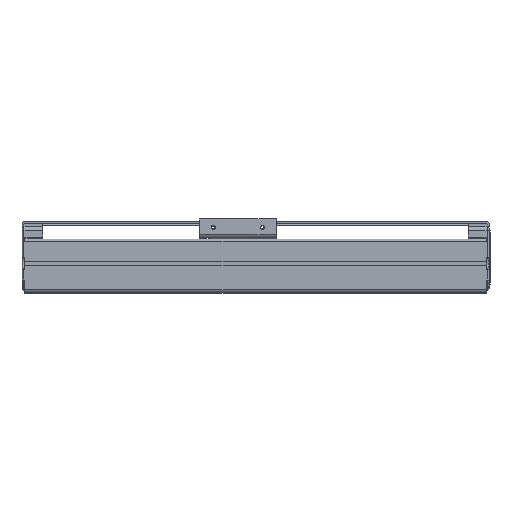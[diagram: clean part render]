
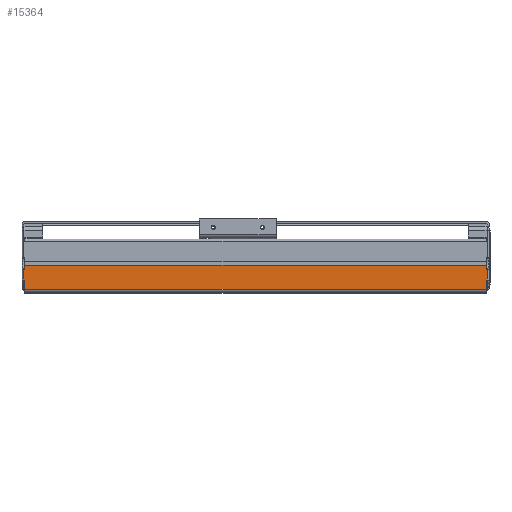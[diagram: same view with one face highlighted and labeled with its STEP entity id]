
A CAD part, top view. The second image highlights one B-rep face of the part: STEP entity #15364.
In plain terms, the highlighted planar face has unit normal (0, 0, 1).
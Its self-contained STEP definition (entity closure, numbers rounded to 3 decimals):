
#2201=DIRECTION('',(0.,1.,0.));
#2202=VECTOR('',#2201,11.);
#2203=CARTESIAN_POINT('',(469.,14.,39.));
#2204=LINE('',#2203,#2202);
#2220=DIRECTION('',(1.,0.,0.));
#2221=VECTOR('',#2220,1.);
#2222=CARTESIAN_POINT('',(468.,14.,39.));
#2223=LINE('',#2222,#2221);
#2228=DIRECTION('',(0.,-1.,0.));
#2229=VECTOR('',#2228,9.5);
#2230=CARTESIAN_POINT('',(0.,14.,39.));
#2231=LINE('',#2230,#2229);
#2232=DIRECTION('',(0.,-1.,0.));
#2233=VECTOR('',#2232,3.9);
#2234=CARTESIAN_POINT('',(0.,28.9,39.));
#2235=LINE('',#2234,#2233);
#2236=DIRECTION('',(0.,1.,0.));
#2237=VECTOR('',#2236,3.9);
#2238=CARTESIAN_POINT('',(468.,25.,39.));
#2239=LINE('',#2238,#2237);
#2240=DIRECTION('',(0.,1.,0.));
#2241=VECTOR('',#2240,9.5);
#2242=CARTESIAN_POINT('',(468.,4.5,39.));
#2243=LINE('',#2242,#2241);
#3760=DIRECTION('',(1.,0.,0.));
#3761=VECTOR('',#3760,468.);
#3762=CARTESIAN_POINT('',(0.,4.5,39.));
#3763=LINE('',#3762,#3761);
#6506=DIRECTION('',(-1.,0.,0.));
#6507=VECTOR('',#6506,1.);
#6508=CARTESIAN_POINT('',(0.,25.,39.));
#6509=LINE('',#6508,#6507);
#6529=DIRECTION('',(0.,-1.,0.));
#6530=VECTOR('',#6529,11.);
#6531=CARTESIAN_POINT('',(-1.,25.,39.));
#6532=LINE('',#6531,#6530);
#6551=DIRECTION('',(1.,0.,0.));
#6552=VECTOR('',#6551,1.);
#6553=CARTESIAN_POINT('',(-1.,14.,39.));
#6554=LINE('',#6553,#6552);
#8803=DIRECTION('',(-1.,0.,0.));
#8804=VECTOR('',#8803,468.);
#8805=CARTESIAN_POINT('',(468.,28.9,39.));
#8806=LINE('',#8805,#8804);
#9497=DIRECTION('',(-1.,0.,0.));
#9498=VECTOR('',#9497,1.);
#9499=CARTESIAN_POINT('',(469.,25.,39.));
#9500=LINE('',#9499,#9498);
#9718=CARTESIAN_POINT('',(0.,4.5,39.));
#9719=VERTEX_POINT('',#9718);
#9720=CARTESIAN_POINT('',(0.,28.9,39.));
#9722=VERTEX_POINT('',#9720);
#9770=CARTESIAN_POINT('',(468.,28.9,39.));
#9771=VERTEX_POINT('',#9770);
#9773=CARTESIAN_POINT('',(468.,4.5,39.));
#9775=VERTEX_POINT('',#9773);
#10354=CARTESIAN_POINT('',(469.,25.,39.));
#10355=VERTEX_POINT('',#10354);
#10358=CARTESIAN_POINT('',(469.,14.,39.));
#10359=VERTEX_POINT('',#10358);
#11454=CARTESIAN_POINT('',(-1.,25.,39.));
#11455=VERTEX_POINT('',#11454);
#11456=CARTESIAN_POINT('',(-1.,14.,39.));
#11457=VERTEX_POINT('',#11456);
#11652=CARTESIAN_POINT('',(468.,14.,39.));
#11654=VERTEX_POINT('',#11652);
#11686=CARTESIAN_POINT('',(468.,25.,39.));
#11688=VERTEX_POINT('',#11686);
#11884=CARTESIAN_POINT('',(0.,25.,39.));
#11885=VERTEX_POINT('',#11884);
#11886=CARTESIAN_POINT('',(0.,14.,39.));
#11888=VERTEX_POINT('',#11886);
#15337=CARTESIAN_POINT('',(234.,16.7,39.));
#15338=DIRECTION('',(0.,0.,1.));
#15339=DIRECTION('',(0.,-1.,0.));
#15340=AXIS2_PLACEMENT_3D('',#15337,#15338,#15339);
#15341=PLANE('',#15340);
#15343=ORIENTED_EDGE('',*,*,#15342,.F.);
#15345=ORIENTED_EDGE('',*,*,#15344,.F.);
#15347=ORIENTED_EDGE('',*,*,#15346,.F.);
#15349=ORIENTED_EDGE('',*,*,#15348,.F.);
#15351=ORIENTED_EDGE('',*,*,#15350,.F.);
#15353=ORIENTED_EDGE('',*,*,#15352,.F.);
#15354=ORIENTED_EDGE('',*,*,#14996,.F.);
#15356=ORIENTED_EDGE('',*,*,#15355,.F.);
#15357=ORIENTED_EDGE('',*,*,#15292,.F.);
#15358=ORIENTED_EDGE('',*,*,#15329,.F.);
#15359=ORIENTED_EDGE('',*,*,#15114,.F.);
#15361=ORIENTED_EDGE('',*,*,#15360,.F.);
#15362=EDGE_LOOP('',(#15343,#15345,#15347,#15349,#15351,#15353,#15354,#15356,
#15357,#15358,#15359,#15361));
#15363=FACE_OUTER_BOUND('',#15362,.F.);
#15364=ADVANCED_FACE('',(#15363),#15341,.T.);
#14996=EDGE_CURVE('',#11688,#9771,#2239,.T.);
#15114=EDGE_CURVE('',#9775,#11654,#2243,.T.);
#15292=EDGE_CURVE('',#10359,#10355,#2204,.T.);
#15329=EDGE_CURVE('',#11654,#10359,#2223,.T.);
#15342=EDGE_CURVE('',#11888,#9719,#2231,.T.);
#15344=EDGE_CURVE('',#11457,#11888,#6554,.T.);
#15346=EDGE_CURVE('',#11455,#11457,#6532,.T.);
#15348=EDGE_CURVE('',#11885,#11455,#6509,.T.);
#15350=EDGE_CURVE('',#9722,#11885,#2235,.T.);
#15352=EDGE_CURVE('',#9771,#9722,#8806,.T.);
#15355=EDGE_CURVE('',#10355,#11688,#9500,.T.);
#15360=EDGE_CURVE('',#9719,#9775,#3763,.T.);
